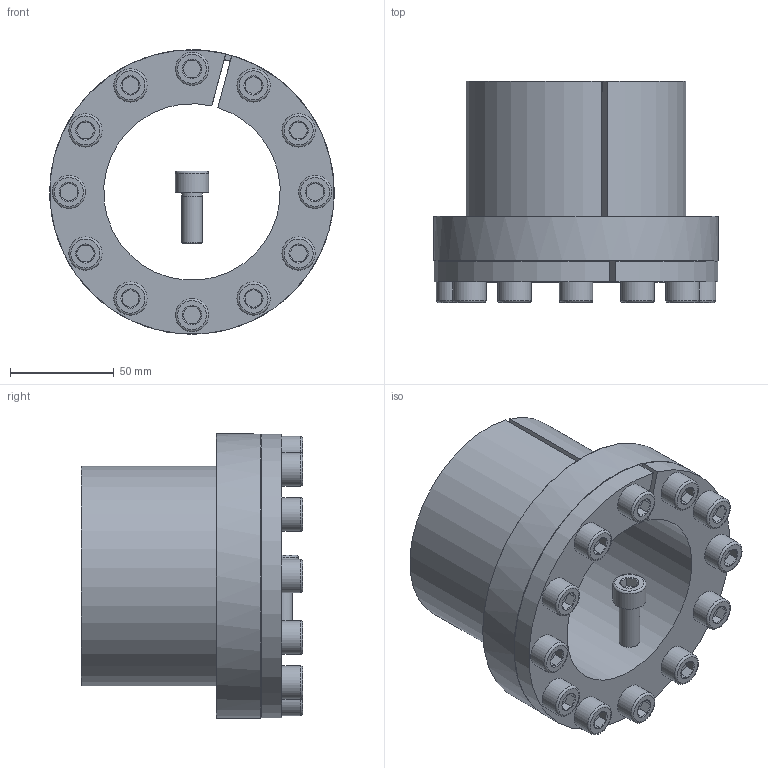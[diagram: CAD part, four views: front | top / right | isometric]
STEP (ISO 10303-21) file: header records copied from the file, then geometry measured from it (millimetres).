
FILE_DESCRIPTION( ( 'Unknown' ), '1' );
FILE_NAME( 'C:/Dokumente und Einstellungen/Sven/Desktop/homepage/cad - homepage/KBS80/KBS 80 - 85 x 106.stp', 'Unknown', ( 'Unknown' ), ( 'Unknown' ), 'XStep 1.0', 'Unknown', ' ' );
FILE_SCHEMA( ( 'automotive_design' ) );
Length unit declared in the file: millimetre
Products named in the file (14): Assem1; KBS 80 - 85 x 106; ISO EN DIN 4762 M10x25; ISO EN DIN 4762 M10x25-oa0; ISO EN DIN 4762 M10x25-oa1; ISO EN DIN 4762 M10x25-oa2; ISO EN DIN 4762 M10x25-oa3; ISO EN DIN 4762 M10x25-oa4; ISO EN DIN 4762 M10x25-oa5; ISO EN DIN 4762 M10x25-oa6; ISO EN DIN 4762 M10x25-oa7; ISO EN DIN 4762 M10x25-oa8; ISO EN DIN 4762 M10x25-oa9; ISO EN DIN 4762 M10x25-oa10
Bounding box: 137 x 106.5 x 137 mm (x, y, z)
Volume: 996858 mm3; surface area: 226840.4 mm2
Topology: 26 solids, 26 shells, 664 faces, 1230 edges, 712 vertices
Faces by surface type: plane 304, cone 182, cylinder 130, torus 48
Full cylindrical faces by diameter (mm): 9 x24, 10 x72, 16 x24, 137 x2
Entity records: 8243 total; most frequent: CARTESIAN_POINT 1741, DIRECTION 1348, ORIENTED_EDGE 978, AXIS2_PLACEMENT_3D 593, EDGE_LOOP 505, EDGE_CURVE 489, FACE_OUTER_BOUND 417, ADVANCED_FACE 332
